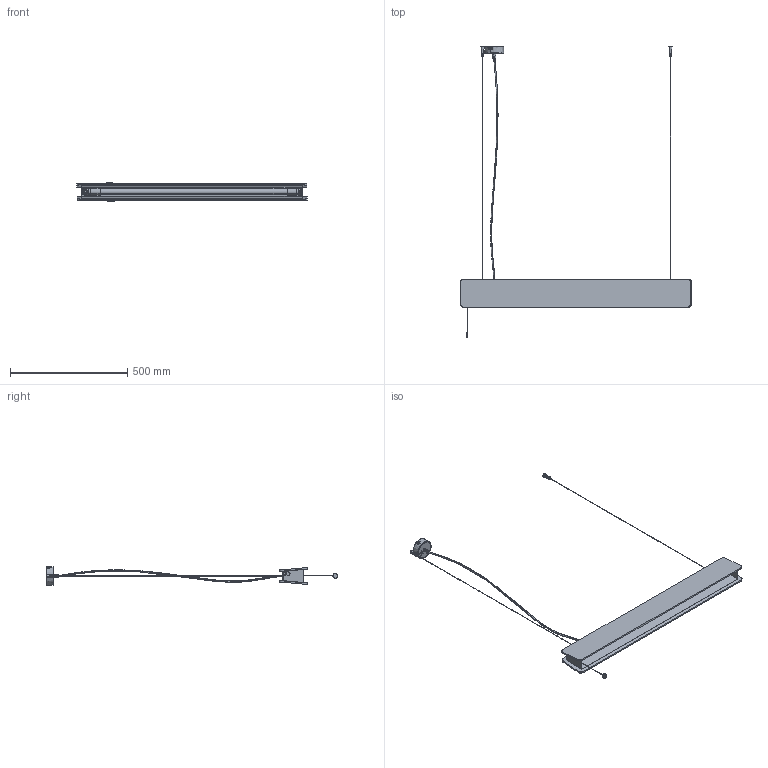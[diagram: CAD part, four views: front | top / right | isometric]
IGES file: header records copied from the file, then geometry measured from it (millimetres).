
Start section: SolidWorks IGES file using analytic representation for surfaces
Global section: file name: E:\....SOLID WORKS\...BORYS\OSLO\OSLO T8\OSLO 900 zwis.IGS; native system: SolidWorks 2016; preprocessor: SolidWorks 2016; author: DELL; date: 170418.115234; units: millimetre
Bounding box: 982.6 x 1239.28 x 79.99 mm (x, y, z)
Surface area: 1237640.3 mm2 (no closed solid volume)
Topology: 0 solids, 0 shells, 2828 faces, 28510 edges, 28496 vertices
Faces by surface type: bspline 2032, revolution 796
